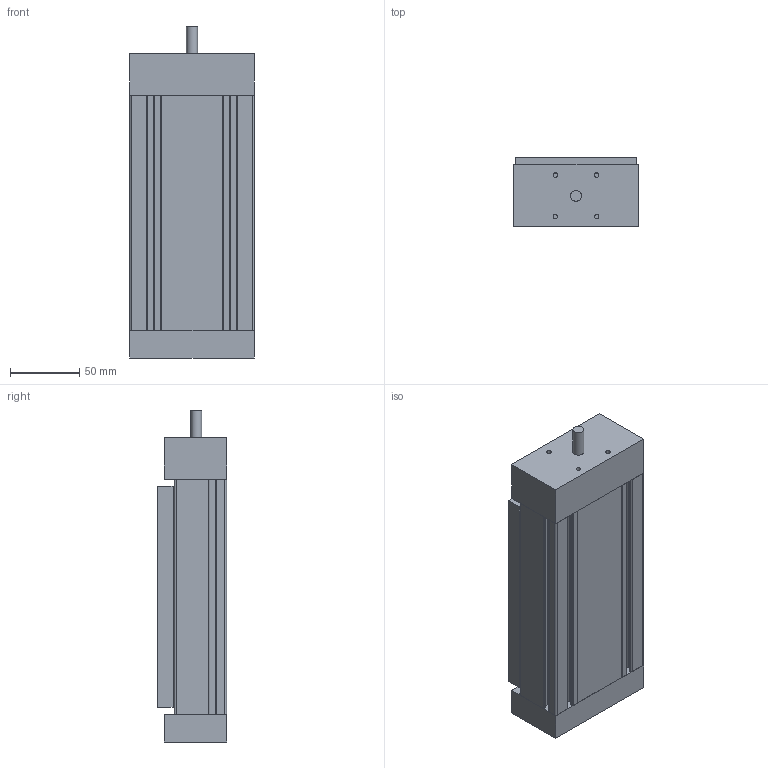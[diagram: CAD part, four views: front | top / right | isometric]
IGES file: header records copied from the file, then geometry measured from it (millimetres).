
Global section: file name: No Iges File Name specified; native system: Autodesk Inventor 2012; preprocessor: AutoDesk Inventor Iges Exporter R2012; author: disegnatore3; date: 20160909.091539; units: millimetre
Bounding box: 90 x 50 x 240 mm (x, y, z)
Volume: 904375 mm3; surface area: 128374.4 mm2
Topology: 4 solids, 4 shells, 114 faces, 279 edges, 186 vertices
Faces by surface type: plane 61, revolution 32, cylinder 21
Full cylindrical faces by diameter (mm): 8 x1
